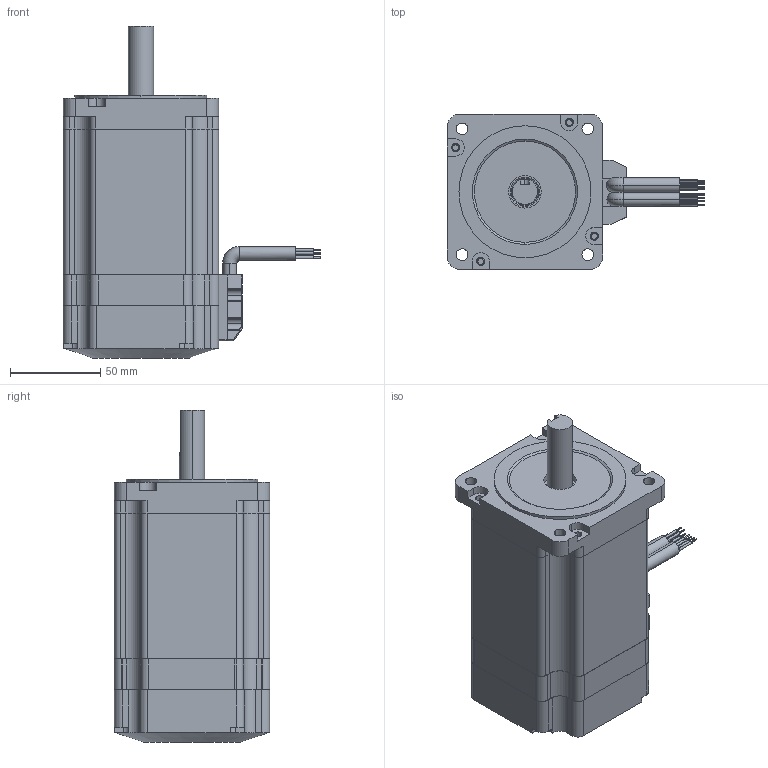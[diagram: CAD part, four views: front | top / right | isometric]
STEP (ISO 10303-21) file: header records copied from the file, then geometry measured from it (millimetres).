
FILE_DESCRIPTION (( 'STEP AP203' ), '1' );
FILE_NAME ('86BYGH250E-25G(DCZN) .STEP', '2024-09-14T08:44:17', ( 'Muse' ), ( 'Muse' ), 'SwSTEP 2.0', 'SolidWorks 2020', '' );
FILE_SCHEMA (( 'CONFIG_CONTROL_DESIGN' ));
Length unit declared in the file: millimetre
Products named in the file (12): 86綴裔; 86隅赽; 6202 粣創; 35-27-0.5 疏菜_35-27-0.5 疏菜; 86 綴欶; 86ヶ裔; 晤鎢ん郪璃; 86BYGH250E-25G(DCZN) ; 蛌赽郪璃; 蛌粣; 86揤盄輸  4邧謂; 盄旰
Assembly tree (12 placements, depth 3):
  86BYGH250E-25G(DCZN) 
    86綴裔
    86隅赽
    86ヶ裔
    蛌赽郪璃
      蛌粣
      6202 粣創  x2
    35-27-0.5 疏菜_35-27-0.5 疏菜
    晤鎢ん郪璃
      86揤盄輸  4邧謂
      盄旰
      86 綴欶
Bounding box: 142.59 x 85.99 x 183.7 mm (x, y, z)
Volume: 510385.6 mm3; surface area: 213212.4 mm2
Topology: 11 solids, 11 shells, 1238 faces, 3778 edges, 2423 vertices
Faces by surface type: cylinder 616, plane 361, sphere 117, torus 116, bspline 18, cone 10
Entity records: 38998 total; most frequent: CARTESIAN_POINT 7816, DIRECTION 6491, ORIENTED_EDGE 6320, EDGE_CURVE 3160, AXIS2_PLACEMENT_3D 2501, VERTEX_POINT 2078, LINE 1489, VECTOR 1489
